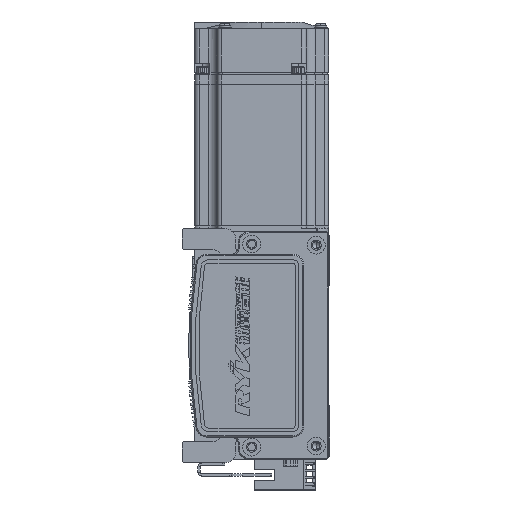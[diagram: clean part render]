
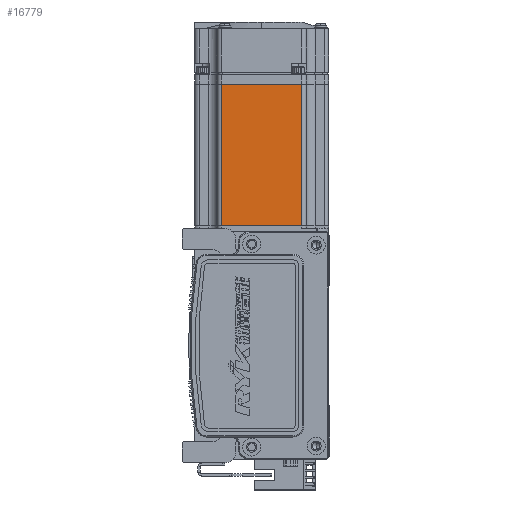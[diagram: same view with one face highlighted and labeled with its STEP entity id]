
A CAD part, left-side view. The second image highlights one B-rep face of the part: STEP entity #16779.
In plain terms, the highlighted planar face has unit normal (-1, 0, 0) as drawn and (0, 0, -1) by its records, which use the part's own axes.
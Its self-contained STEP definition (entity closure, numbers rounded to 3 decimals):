
#2638 = ORIENTED_EDGE ( 'NONE', *, *, #38519, .T. ) ;
#2747 = LINE ( 'NONE', #50136, #38862 ) ;
#2787 = VECTOR ( 'NONE', #65851, 1000. ) ;
#3192 = VERTEX_POINT ( 'NONE', #54558 ) ;
#3647 = LINE ( 'NONE', #43599, #2787 ) ;
#7602 = VECTOR ( 'NONE', #42681, 1000. ) ;
#7913 = FACE_OUTER_BOUND ( 'NONE', #15188, .T. ) ;
#9016 = ORIENTED_EDGE ( 'NONE', *, *, #27871, .T. ) ;
#9564 = DIRECTION ( 'NONE',  ( 0., 0., -1. ) ) ;
#13379 = CARTESIAN_POINT ( 'NONE',  ( -7.75, 18., -30. ) ) ;
#13918 = ORIENTED_EDGE ( 'NONE', *, *, #61267, .T. ) ;
#15188 = EDGE_LOOP ( 'NONE', ( #13918, #2638, #9016, #28136 ) ) ;
#16779 = ADVANCED_FACE ( 'NONE', ( #7913 ), #40627, .T. ) ;
#17563 = DIRECTION ( 'NONE',  ( 0., -1., 0. ) ) ;
#24456 = DIRECTION ( 'NONE',  ( -1., 0., 0. ) ) ;
#26221 = CARTESIAN_POINT ( 'NONE',  ( -7.75, -18., -30. ) ) ;
#27871 = EDGE_CURVE ( 'NONE', #51397, #3192, #51197, .T. ) ;
#28136 = ORIENTED_EDGE ( 'NONE', *, *, #43086, .T. ) ;
#30476 = DIRECTION ( 'NONE',  ( -1., 0., 0. ) ) ;
#38519 = EDGE_CURVE ( 'NONE', #49504, #51397, #2747, .T. ) ;
#38862 = VECTOR ( 'NONE', #24456, 1000. ) ;
#40627 = PLANE ( 'NONE',  #66251 ) ;
#42233 = CARTESIAN_POINT ( 'NONE',  ( -70.95, 25., -30. ) ) ;
#42681 = DIRECTION ( 'NONE',  ( 0., 1., 0. ) ) ;
#43086 = EDGE_CURVE ( 'NONE', #3192, #50980, #3647, .T. ) ;
#43423 = VECTOR ( 'NONE', #17563, 1000. ) ;
#43599 = CARTESIAN_POINT ( 'NONE',  ( -6.5, 18., -30. ) ) ;
#49504 = VERTEX_POINT ( 'NONE', #26221 ) ;
#50136 = CARTESIAN_POINT ( 'NONE',  ( -6.5, -18., -30. ) ) ;
#50306 = CARTESIAN_POINT ( 'NONE',  ( -70.95, -18., -30. ) ) ;
#50980 = VERTEX_POINT ( 'NONE', #13379 ) ;
#51197 = LINE ( 'NONE', #42233, #7602 ) ;
#51397 = VERTEX_POINT ( 'NONE', #50306 ) ;
#52423 = LINE ( 'NONE', #64364, #43423 ) ;
#54558 = CARTESIAN_POINT ( 'NONE',  ( -70.95, 18., -30. ) ) ;
#61267 = EDGE_CURVE ( 'NONE', #50980, #49504, #52423, .T. ) ;
#64364 = CARTESIAN_POINT ( 'NONE',  ( -7.75, 25., -30. ) ) ;
#65851 = DIRECTION ( 'NONE',  ( 1., 0., 0. ) ) ;
#66251 = AXIS2_PLACEMENT_3D ( 'NONE', #67463, #9564, #30476 ) ;
#67463 = CARTESIAN_POINT ( 'NONE',  ( -6.5, 25., -30. ) ) ;
